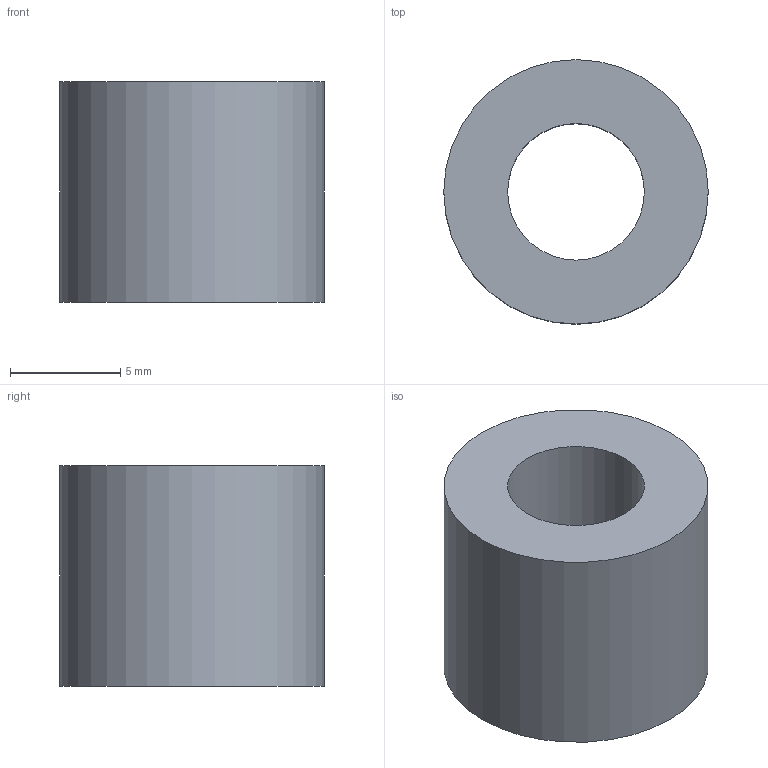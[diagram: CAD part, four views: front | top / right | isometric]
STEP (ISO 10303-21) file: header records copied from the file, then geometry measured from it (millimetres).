
FILE_DESCRIPTION(('Open CASCADE Model'),'2;1');
FILE_NAME('Open CASCADE Shape Model','2026-09-16T16:54:27',('Author'),( 'Open CASCADE'),'Open CASCADE STEP processor 7.8','Open CASCADE 7.8' ,'Unknown');
FILE_SCHEMA(('AUTOMOTIVE_DESIGN { 1 0 10303 214 1 1 1 1 }'));
Length unit declared in the file: millimetre
Products named in the file (1): Open CASCADE STEP translator 7.8 27
Bounding box: 12 x 12 x 10 mm (x, y, z)
Volume: 829.1 mm3; surface area: 737.6 mm2
Topology: 1 solids, 1 shells, 4 faces, 6 edges, 4 vertices
Faces by surface type: cylinder 2, plane 2
Full cylindrical faces by diameter (mm): 6.2 x1, 12 x1
Entity records: 186 total; most frequent: DIRECTION 32, CARTESIAN_POINT 27, ORIENTED_EDGE 12, PCURVE 12, DEFINITIONAL_REPRESENTATION 12, LINE 10, VECTOR 10, AXIS2_PLACEMENT_3D 9
